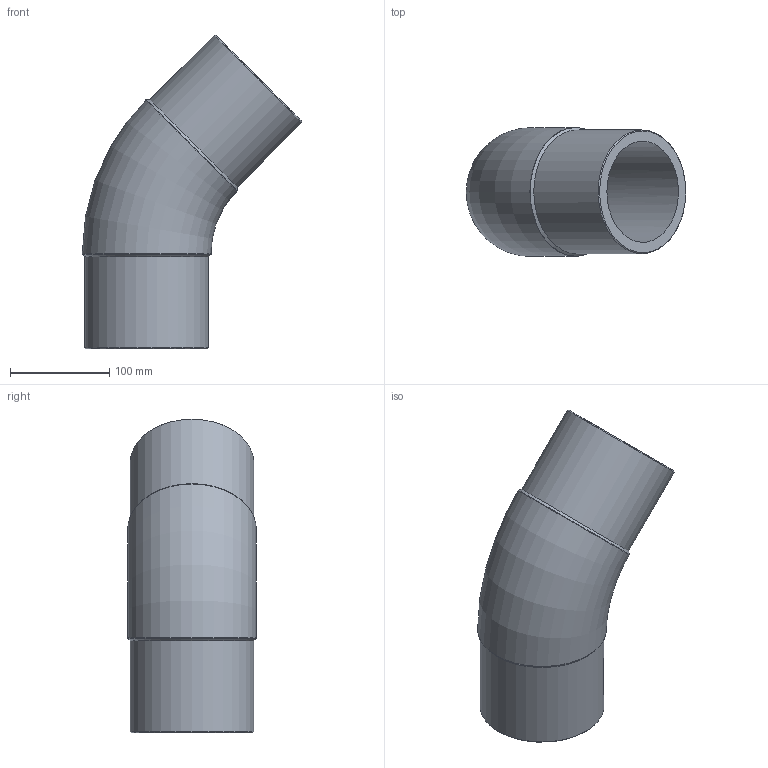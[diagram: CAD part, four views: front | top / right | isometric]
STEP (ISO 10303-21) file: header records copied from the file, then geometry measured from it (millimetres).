
FILE_DESCRIPTION(/* description */ ('Unknown'),/* implementation_level */ '2;1');
FILE_NAME(/* name */ 'G4P125C',/* time_stamp */ '2022-01-19T10:37:39+01:00',/* author */ ('Unknown'),/* organization */ ('Unknown'),/* preprocessor_version */ 'ST-DEVELOPER v18.1',/* originating_system */ 'Solid Edge',/* authorisation */ 'Unknown');
FILE_SCHEMA (('AUTOMOTIVE_DESIGN {1 0 10303 214 3 1 1}'));
Length unit declared in the file: millimetre
Products named in the file (1): G4P125C
Bounding box: 221.62 x 130 x 316.62 mm (x, y, z)
Volume: 1428480.3 mm3; surface area: 233940.3 mm2
Topology: 1 solids, 1 shells, 14 faces, 34 edges, 22 vertices
Faces by surface type: cylinder 6, cone 4, plane 2, torus 2
Full cylindrical faces by diameter (mm): 102.2 x2, 125 x2, 130 x2
Entity records: 370 total; most frequent: CARTESIAN_POINT 70, DIRECTION 60, ORIENTED_EDGE 38, AXIS2_PLACEMENT_3D 30, EDGE_LOOP 27, FACE_BOUND 27, EDGE_CURVE 19, VERTEX_POINT 18
